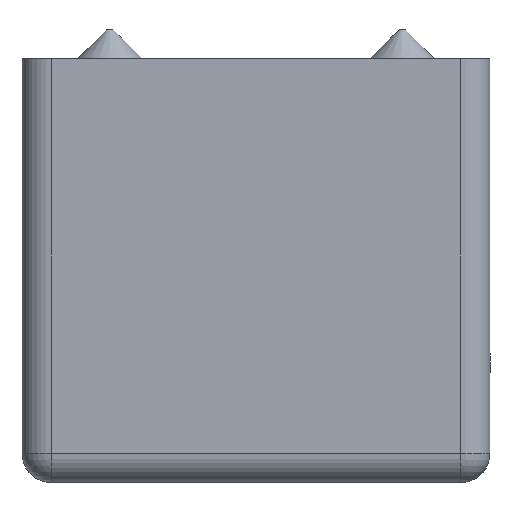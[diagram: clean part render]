
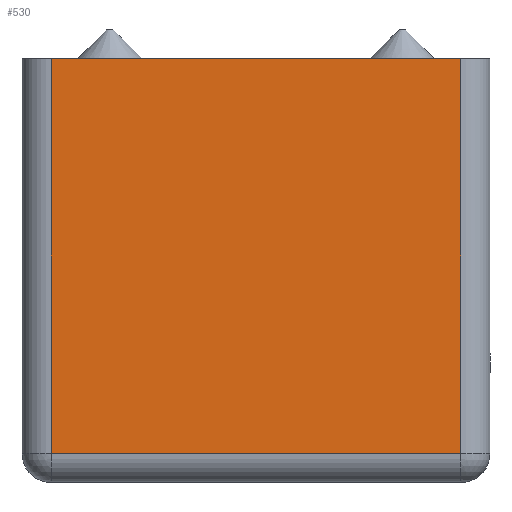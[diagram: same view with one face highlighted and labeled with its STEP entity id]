
A CAD part, left-side view. The second image highlights one B-rep face of the part: STEP entity #530.
In plain terms, the highlighted planar face has unit normal (-1, 0, 0).
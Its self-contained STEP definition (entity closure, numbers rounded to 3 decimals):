
#39=PLANE('',#601);
#63=FACE_OUTER_BOUND('',#96,.T.);
#96=EDGE_LOOP('',(#382,#383,#384,#385));
#127=LINE('',#842,#166);
#132=LINE('',#865,#171);
#133=LINE('',#867,#172);
#134=LINE('',#868,#173);
#166=VECTOR('',#684,10.);
#171=VECTOR('',#711,10.);
#172=VECTOR('',#712,10.);
#173=VECTOR('',#713,10.);
#239=VERTEX_POINT('',#835);
#242=VERTEX_POINT('',#840);
#249=VERTEX_POINT('',#864);
#250=VERTEX_POINT('',#866);
#289=EDGE_CURVE('',#242,#239,#127,.T.);
#300=EDGE_CURVE('',#249,#242,#132,.T.);
#301=EDGE_CURVE('',#250,#249,#133,.T.);
#302=EDGE_CURVE('',#250,#239,#134,.T.);
#382=ORIENTED_EDGE('',*,*,#289,.F.);
#383=ORIENTED_EDGE('',*,*,#300,.F.);
#384=ORIENTED_EDGE('',*,*,#301,.F.);
#385=ORIENTED_EDGE('',*,*,#302,.T.);
#530=ADVANCED_FACE('',(#63),#39,.T.);
#601=AXIS2_PLACEMENT_3D('',#863,#709,#710);
#684=DIRECTION('',(0.,0.,1.));
#709=DIRECTION('center_axis',(-1.,0.,0.));
#710=DIRECTION('ref_axis',(0.,0.,1.));
#711=DIRECTION('',(0.,1.,0.));
#712=DIRECTION('',(0.,0.,-1.));
#713=DIRECTION('',(0.,1.,0.));
#835=CARTESIAN_POINT('',(-18.5,7.,14.5));
#840=CARTESIAN_POINT('',(-18.5,7.,1.));
#842=CARTESIAN_POINT('',(-18.5,7.,0.));
#863=CARTESIAN_POINT('Origin',(-18.5,-8.,0.));
#864=CARTESIAN_POINT('',(-18.5,-7.,1.));
#865=CARTESIAN_POINT('',(-18.5,-4.,1.));
#866=CARTESIAN_POINT('',(-18.5,-7.,14.5));
#867=CARTESIAN_POINT('',(-18.5,-7.,0.));
#868=CARTESIAN_POINT('',(-18.5,-8.,14.5));
